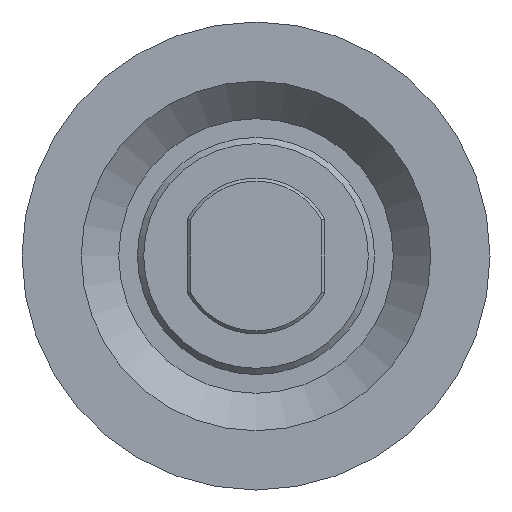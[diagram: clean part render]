
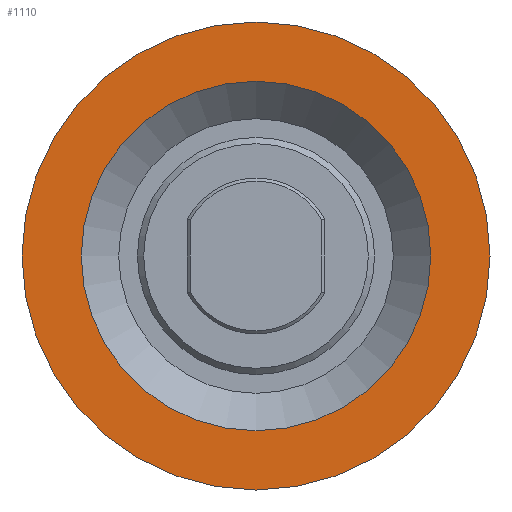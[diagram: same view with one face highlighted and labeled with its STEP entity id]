
A CAD part, left-side view. The second image highlights one B-rep face of the part: STEP entity #1110.
In plain terms, the highlighted planar face has unit normal (-1, 0, 0).
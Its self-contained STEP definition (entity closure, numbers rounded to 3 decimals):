
#91=FACE_BOUND('',#357,.T.);
#104=PLANE('',#1391);
#283=FACE_OUTER_BOUND('',#356,.T.);
#356=EDGE_LOOP('',(#862,#863));
#357=EDGE_LOOP('',(#864,#865));
#440=CIRCLE('',#1358,37.5);
#441=CIRCLE('',#1359,37.5);
#461=CIRCLE('',#1389,28.);
#462=CIRCLE('',#1390,28.);
#524=VERTEX_POINT('',#1940);
#525=VERTEX_POINT('',#1942);
#545=VERTEX_POINT('',#1999);
#546=VERTEX_POINT('',#2001);
#634=EDGE_CURVE('',#524,#525,#440,.T.);
#635=EDGE_CURVE('',#525,#524,#441,.T.);
#662=EDGE_CURVE('',#546,#545,#461,.T.);
#663=EDGE_CURVE('',#545,#546,#462,.T.);
#862=ORIENTED_EDGE('',*,*,#635,.F.);
#863=ORIENTED_EDGE('',*,*,#634,.F.);
#864=ORIENTED_EDGE('',*,*,#662,.T.);
#865=ORIENTED_EDGE('',*,*,#663,.T.);
#1110=ADVANCED_FACE('',(#283,#91),#104,.T.);
#1358=AXIS2_PLACEMENT_3D('',#1943,#1559,#1560);
#1359=AXIS2_PLACEMENT_3D('',#1944,#1561,#1562);
#1389=AXIS2_PLACEMENT_3D('',#2002,#1628,#1629);
#1390=AXIS2_PLACEMENT_3D('',#2003,#1630,#1631);
#1391=AXIS2_PLACEMENT_3D('',#2004,#1632,#1633);
#1559=DIRECTION('center_axis',(1.,0.,0.));
#1560=DIRECTION('ref_axis',(0.,0.,-1.));
#1561=DIRECTION('center_axis',(1.,0.,0.));
#1562=DIRECTION('ref_axis',(0.,0.,-1.));
#1628=DIRECTION('center_axis',(1.,0.,0.));
#1629=DIRECTION('ref_axis',(0.,0.,-1.));
#1630=DIRECTION('center_axis',(1.,0.,0.));
#1631=DIRECTION('ref_axis',(0.,0.,-1.));
#1632=DIRECTION('center_axis',(-1.,0.,0.));
#1633=DIRECTION('ref_axis',(0.,0.,1.));
#1940=CARTESIAN_POINT('',(-9.,-37.5,0.));
#1942=CARTESIAN_POINT('',(-9.,37.5,0.));
#1943=CARTESIAN_POINT('Origin',(-9.,0.,
0.));
#1944=CARTESIAN_POINT('Origin',(-9.,0.,
0.));
#1999=CARTESIAN_POINT('',(-9.,-28.,0.));
#2001=CARTESIAN_POINT('',(-9.,28.,0.));
#2002=CARTESIAN_POINT('Origin',(-9.,0.,
0.));
#2003=CARTESIAN_POINT('Origin',(-9.,0.,
0.));
#2004=CARTESIAN_POINT('Origin',(-9.,37.5,0.));
